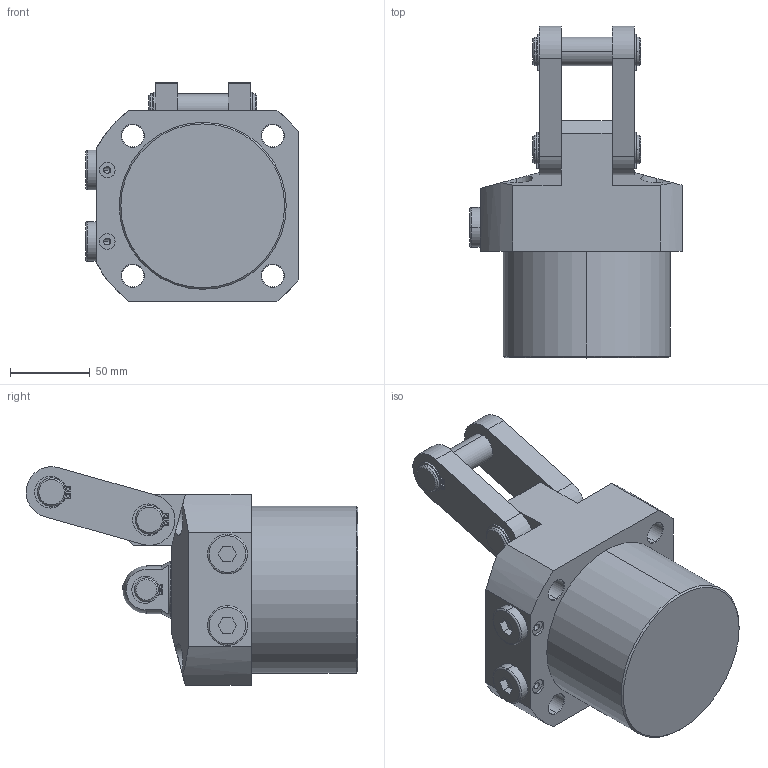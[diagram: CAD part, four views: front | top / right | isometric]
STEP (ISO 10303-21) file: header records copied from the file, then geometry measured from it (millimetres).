
FILE_DESCRIPTION (( 'STEP AP203' ), '1' );
FILE_NAME ('4171 821 R.STEP', '2017-11-29T06:56:11', ( '' ), ( '' ), 'SwSTEP 2.0', 'SolidWorks 2015', '' );
FILE_SCHEMA (( 'CONFIG_CONTROL_DESIGN' ));
Length unit declared in the file: millimetre
Products named in the file (8): PIN 2; LINK; (normal) external_is_IS 3075 NE- 15; (normal) external_is_IS 3075 NE- 18; 4171 821 R; BODY_4171 821 R; PR; PIN 1
Assembly tree (13 placements, depth 2):
  4171 821 R
    BODY_4171 821 R
    PR
    PIN 1
    PIN 2  x2
    LINK  x2
    (normal) external_is_IS 3075 NE- 15  x2
    (normal) external_is_IS 3075 NE- 18  x4
Bounding box: 133.5 x 208.54 x 137.36 mm (x, y, z)
Volume: 1401171.5 mm3; surface area: 131952 mm2
Topology: 13 solids, 13 shells, 344 faces, 848 edges, 547 vertices
Faces by surface type: cylinder 173, plane 125, cone 40, torus 4, sphere 2
Entity records: 7774 total; most frequent: CARTESIAN_POINT 1347, DIRECTION 1212, ORIENTED_EDGE 1078, EDGE_CURVE 539, AXIS2_PLACEMENT_3D 471, VERTEX_POINT 346, LINE 270, VECTOR 270
